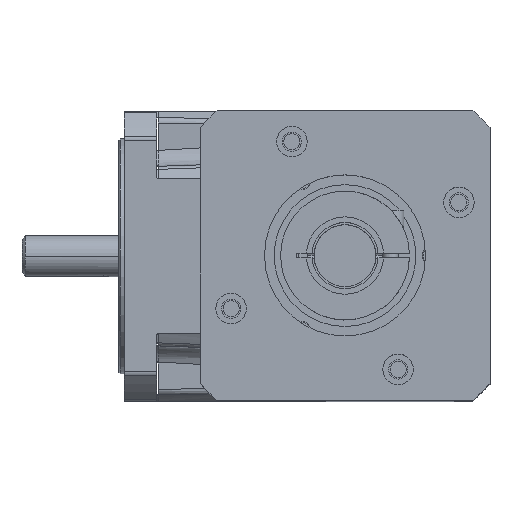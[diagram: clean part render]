
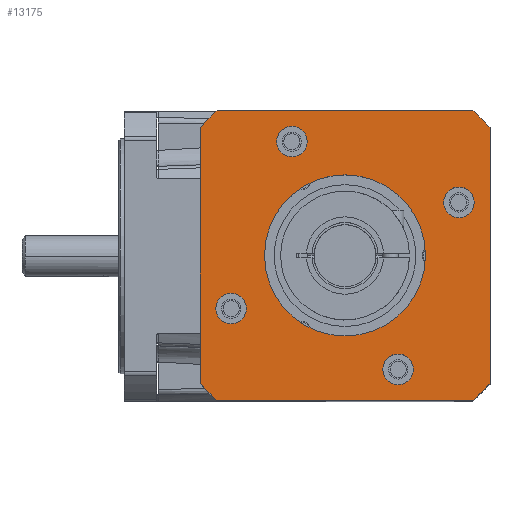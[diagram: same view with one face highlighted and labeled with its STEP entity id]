
A CAD part, top view. The second image highlights one B-rep face of the part: STEP entity #13175.
In plain terms, the highlighted planar face has unit normal (0, 0, 1).
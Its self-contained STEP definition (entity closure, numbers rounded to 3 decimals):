
#12488=CARTESIAN_POINT('',(0.,0.,205.5));
#12489=DIRECTION('',(0.,0.,-1.));
#12490=DIRECTION('',(0.75,-0.661,0.));
#12491=AXIS2_PLACEMENT_3D('',#12488,#12489,#12490);
#12493=DIRECTION('',(-1.,0.,0.));
#12494=VECTOR('',#12493,79.373);
#12495=CARTESIAN_POINT('',(39.686,-45.,205.5));
#12496=LINE('',#12495,#12494);
#12497=CARTESIAN_POINT('',(0.,0.,205.5));
#12498=DIRECTION('',(0.,0.,-1.));
#12499=DIRECTION('',(-0.661,-0.75,0.));
#12500=AXIS2_PLACEMENT_3D('',#12497,#12498,#12499);
#12502=DIRECTION('',(0.,1.,0.));
#12503=VECTOR('',#12502,79.373);
#12504=CARTESIAN_POINT('',(-45.,-39.686,205.5));
#12505=LINE('',#12504,#12503);
#12506=CARTESIAN_POINT('',(0.,0.,205.5));
#12507=DIRECTION('',(0.,0.,-1.));
#12508=DIRECTION('',(-0.75,0.661,0.));
#12509=AXIS2_PLACEMENT_3D('',#12506,#12507,#12508);
#12511=DIRECTION('',(1.,0.,0.));
#12512=VECTOR('',#12511,79.373);
#12513=CARTESIAN_POINT('',(-39.686,45.,205.5));
#12514=LINE('',#12513,#12512);
#12515=CARTESIAN_POINT('',(0.,0.,205.5));
#12516=DIRECTION('',(0.,0.,-1.));
#12517=DIRECTION('',(0.661,0.75,0.));
#12518=AXIS2_PLACEMENT_3D('',#12515,#12516,#12517);
#12520=DIRECTION('',(0.,-1.,0.));
#12521=VECTOR('',#12520,79.373);
#12522=CARTESIAN_POINT('',(45.,39.686,205.5));
#12523=LINE('',#12522,#12521);
#12524=CARTESIAN_POINT('',(0.,0.,205.5));
#12525=DIRECTION('',(0.,0.,1.));
#12526=DIRECTION('',(1.,0.,0.));
#12527=AXIS2_PLACEMENT_3D('',#12524,#12525,#12526);
#12529=CARTESIAN_POINT('',(0.,0.,205.5));
#12530=DIRECTION('',(0.,0.,1.));
#12531=DIRECTION('',(-1.,0.,0.));
#12532=AXIS2_PLACEMENT_3D('',#12529,#12530,#12531);
#12534=CARTESIAN_POINT('',(35.346,16.482,205.5));
#12535=DIRECTION('',(0.,0.,-1.));
#12536=DIRECTION('',(-1.,0.,0.));
#12537=AXIS2_PLACEMENT_3D('',#12534,#12535,#12536);
#12539=CARTESIAN_POINT('',(35.346,16.482,205.5));
#12540=DIRECTION('',(0.,0.,-1.));
#12541=DIRECTION('',(1.,0.,0.));
#12542=AXIS2_PLACEMENT_3D('',#12539,#12540,#12541);
#12544=CARTESIAN_POINT('',(-16.482,35.346,205.5));
#12545=DIRECTION('',(0.,0.,-1.));
#12546=DIRECTION('',(-1.,0.,0.));
#12547=AXIS2_PLACEMENT_3D('',#12544,#12545,#12546);
#12549=CARTESIAN_POINT('',(-16.482,35.346,205.5));
#12550=DIRECTION('',(0.,0.,-1.));
#12551=DIRECTION('',(1.,0.,0.));
#12552=AXIS2_PLACEMENT_3D('',#12549,#12550,#12551);
#12554=CARTESIAN_POINT('',(-35.346,-16.482,205.5));
#12555=DIRECTION('',(0.,0.,-1.));
#12556=DIRECTION('',(-1.,0.,0.));
#12557=AXIS2_PLACEMENT_3D('',#12554,#12555,#12556);
#12559=CARTESIAN_POINT('',(-35.346,-16.482,205.5));
#12560=DIRECTION('',(0.,0.,-1.));
#12561=DIRECTION('',(1.,0.,0.));
#12562=AXIS2_PLACEMENT_3D('',#12559,#12560,#12561);
#12564=CARTESIAN_POINT('',(16.482,-35.346,205.5));
#12565=DIRECTION('',(0.,0.,-1.));
#12566=DIRECTION('',(1.,0.,0.));
#12567=AXIS2_PLACEMENT_3D('',#12564,#12565,#12566);
#12569=CARTESIAN_POINT('',(16.482,-35.346,205.5));
#12570=DIRECTION('',(0.,0.,-1.));
#12571=DIRECTION('',(-1.,0.,0.));
#12572=AXIS2_PLACEMENT_3D('',#12569,#12570,#12571);
#13004=CARTESIAN_POINT('',(45.,-39.686,205.5));
#13005=CARTESIAN_POINT('',(39.686,-45.,205.5));
#13006=VERTEX_POINT('',#13004);
#13007=VERTEX_POINT('',#13005);
#13008=CARTESIAN_POINT('',(-39.686,-45.,205.5));
#13009=CARTESIAN_POINT('',(-45.,-39.686,205.5));
#13010=VERTEX_POINT('',#13008);
#13011=VERTEX_POINT('',#13009);
#13012=CARTESIAN_POINT('',(-45.,39.686,205.5));
#13013=CARTESIAN_POINT('',(-39.686,45.,205.5));
#13014=VERTEX_POINT('',#13012);
#13015=VERTEX_POINT('',#13013);
#13016=CARTESIAN_POINT('',(39.686,45.,205.5));
#13017=CARTESIAN_POINT('',(45.,39.686,205.5));
#13018=VERTEX_POINT('',#13016);
#13019=VERTEX_POINT('',#13017);
#13036=CARTESIAN_POINT('',(25.,0.,205.5));
#13037=CARTESIAN_POINT('',(-25.,0.,205.5));
#13038=VERTEX_POINT('',#13036);
#13039=VERTEX_POINT('',#13037);
#13060=CARTESIAN_POINT('',(30.596,16.482,205.5));
#13061=CARTESIAN_POINT('',(40.096,16.482,205.5));
#13062=VERTEX_POINT('',#13060);
#13063=VERTEX_POINT('',#13061);
#13076=CARTESIAN_POINT('',(-21.232,35.346,205.5));
#13077=VERTEX_POINT('',#13076);
#13078=CARTESIAN_POINT('',(-11.732,35.346,205.5));
#13079=VERTEX_POINT('',#13078);
#13088=CARTESIAN_POINT('',(-40.096,-16.482,205.5));
#13089=VERTEX_POINT('',#13088);
#13090=CARTESIAN_POINT('',(-30.596,-16.482,205.5));
#13091=VERTEX_POINT('',#13090);
#13100=CARTESIAN_POINT('',(11.732,-35.346,205.5));
#13101=VERTEX_POINT('',#13100);
#13102=CARTESIAN_POINT('',(21.232,-35.346,205.5));
#13103=VERTEX_POINT('',#13102);
#13122=CARTESIAN_POINT('',(0.,0.,205.5));
#13123=DIRECTION('',(0.,0.,-1.));
#13124=DIRECTION('',(-1.,0.,0.));
#13125=AXIS2_PLACEMENT_3D('',#13122,#13123,#13124);
#13126=PLANE('',#13125);
#13128=ORIENTED_EDGE('',*,*,#13127,.T.);
#13130=ORIENTED_EDGE('',*,*,#13129,.T.);
#13132=ORIENTED_EDGE('',*,*,#13131,.T.);
#13134=ORIENTED_EDGE('',*,*,#13133,.T.);
#13136=ORIENTED_EDGE('',*,*,#13135,.T.);
#13138=ORIENTED_EDGE('',*,*,#13137,.T.);
#13140=ORIENTED_EDGE('',*,*,#13139,.T.);
#13142=ORIENTED_EDGE('',*,*,#13141,.T.);
#13143=EDGE_LOOP('',(#13128,#13130,#13132,#13134,#13136,#13138,#13140,#13142));
#13144=FACE_OUTER_BOUND('',#13143,.F.);
#13146=ORIENTED_EDGE('',*,*,#13145,.T.);
#13148=ORIENTED_EDGE('',*,*,#13147,.T.);
#13149=EDGE_LOOP('',(#13146,#13148));
#13150=FACE_BOUND('',#13149,.F.);
#13152=ORIENTED_EDGE('',*,*,#13151,.F.);
#13154=ORIENTED_EDGE('',*,*,#13153,.F.);
#13155=EDGE_LOOP('',(#13152,#13154));
#13156=FACE_BOUND('',#13155,.F.);
#13158=ORIENTED_EDGE('',*,*,#13157,.F.);
#13160=ORIENTED_EDGE('',*,*,#13159,.F.);
#13161=EDGE_LOOP('',(#13158,#13160));
#13162=FACE_BOUND('',#13161,.F.);
#13164=ORIENTED_EDGE('',*,*,#13163,.F.);
#13166=ORIENTED_EDGE('',*,*,#13165,.F.);
#13167=EDGE_LOOP('',(#13164,#13166));
#13168=FACE_BOUND('',#13167,.F.);
#13170=ORIENTED_EDGE('',*,*,#13169,.F.);
#13172=ORIENTED_EDGE('',*,*,#13171,.F.);
#13173=EDGE_LOOP('',(#13170,#13172));
#13174=FACE_BOUND('',#13173,.F.);
#13175=ADVANCED_FACE('',(#13144,#13150,#13156,#13162,#13168,#13174),#13126,.F.);
#12492=CIRCLE('',#12491,60.);
#12501=CIRCLE('',#12500,60.);
#12510=CIRCLE('',#12509,60.);
#12519=CIRCLE('',#12518,60.);
#12528=CIRCLE('',#12527,25.);
#12533=CIRCLE('',#12532,25.);
#12538=CIRCLE('',#12537,4.75);
#12543=CIRCLE('',#12542,4.75);
#12548=CIRCLE('',#12547,4.75);
#12553=CIRCLE('',#12552,4.75);
#12558=CIRCLE('',#12557,4.75);
#12563=CIRCLE('',#12562,4.75);
#12568=CIRCLE('',#12567,4.75);
#12573=CIRCLE('',#12572,4.75);
#13127=EDGE_CURVE('',#13006,#13007,#12492,.T.);
#13129=EDGE_CURVE('',#13007,#13010,#12496,.T.);
#13131=EDGE_CURVE('',#13010,#13011,#12501,.T.);
#13133=EDGE_CURVE('',#13011,#13014,#12505,.T.);
#13135=EDGE_CURVE('',#13014,#13015,#12510,.T.);
#13137=EDGE_CURVE('',#13015,#13018,#12514,.T.);
#13139=EDGE_CURVE('',#13018,#13019,#12519,.T.);
#13141=EDGE_CURVE('',#13019,#13006,#12523,.T.);
#13145=EDGE_CURVE('',#13038,#13039,#12528,.T.);
#13147=EDGE_CURVE('',#13039,#13038,#12533,.T.);
#13151=EDGE_CURVE('',#13062,#13063,#12538,.T.);
#13153=EDGE_CURVE('',#13063,#13062,#12543,.T.);
#13157=EDGE_CURVE('',#13077,#13079,#12548,.T.);
#13159=EDGE_CURVE('',#13079,#13077,#12553,.T.);
#13163=EDGE_CURVE('',#13089,#13091,#12558,.T.);
#13165=EDGE_CURVE('',#13091,#13089,#12563,.T.);
#13169=EDGE_CURVE('',#13103,#13101,#12568,.T.);
#13171=EDGE_CURVE('',#13101,#13103,#12573,.T.);
